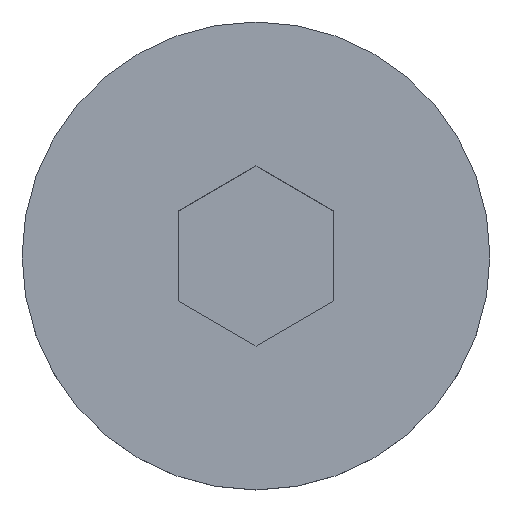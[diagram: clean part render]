
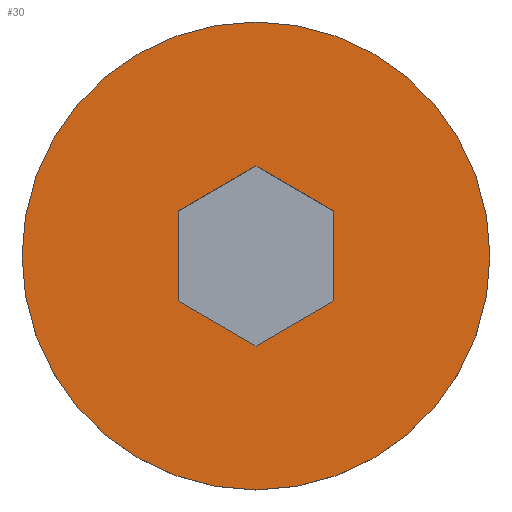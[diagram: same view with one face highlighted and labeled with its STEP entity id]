
A CAD part, top view. The second image highlights one B-rep face of the part: STEP entity #30.
In plain terms, the highlighted planar face has unit normal (0, 0, 1).
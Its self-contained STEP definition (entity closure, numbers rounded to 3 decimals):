
#3 = AXIS2_PLACEMENT_3D ( 'NONE', #218, #187, #151 ) ;
#13 = VERTEX_POINT ( 'NONE', #104 ) ;
#15 = LINE ( 'NONE', #349, #50 ) ;
#18 = LINE ( 'NONE', #375, #357 ) ;
#25 = ORIENTED_EDGE ( 'NONE', *, *, #190, .T. ) ;
#30 = ADVANCED_FACE ( 'NONE', ( #48, #76 ), #207, .T. ) ;
#34 = ORIENTED_EDGE ( 'NONE', *, *, #231, .T. ) ;
#36 = AXIS2_PLACEMENT_3D ( 'NONE', #307, #333, #409 ) ;
#41 = VERTEX_POINT ( 'NONE', #332 ) ;
#43 = CARTESIAN_POINT ( 'NONE',  ( -2.5, 1.443, 1.5 ) ) ;
#45 = DIRECTION ( 'NONE',  ( 0., -1., 0. ) ) ;
#48 = FACE_BOUND ( 'NONE', #216, .T. ) ;
#50 = VECTOR ( 'NONE', #319, 1000. ) ;
#54 = VERTEX_POINT ( 'NONE', #79 ) ;
#56 = CARTESIAN_POINT ( 'NONE',  ( 0., 2.887, 1.5 ) ) ;
#68 = EDGE_CURVE ( 'NONE', #70, #13, #286, .T. ) ;
#69 = ORIENTED_EDGE ( 'NONE', *, *, #68, .F. ) ;
#70 = VERTEX_POINT ( 'NONE', #43 ) ;
#76 = FACE_OUTER_BOUND ( 'NONE', #350, .T. ) ;
#79 = CARTESIAN_POINT ( 'NONE',  ( 7.5, 0., 1.5 ) ) ;
#81 = DIRECTION ( 'NONE',  ( 0.866, -0.5, 0. ) ) ;
#87 = ORIENTED_EDGE ( 'NONE', *, *, #303, .F. ) ;
#101 = AXIS2_PLACEMENT_3D ( 'NONE', #184, #310, #118 ) ;
#102 = VECTOR ( 'NONE', #129, 1000. ) ;
#104 = CARTESIAN_POINT ( 'NONE',  ( -2.5, -1.443, 1.5 ) ) ;
#105 = VECTOR ( 'NONE', #305, 1000. ) ;
#106 = ORIENTED_EDGE ( 'NONE', *, *, #115, .F. ) ;
#112 = CARTESIAN_POINT ( 'NONE',  ( -2.5, 1.443, 1.5 ) ) ;
#115 = EDGE_CURVE ( 'NONE', #13, #267, #18, .T. ) ;
#118 = DIRECTION ( 'NONE',  ( 1., 0., 0. ) ) ;
#122 = ORIENTED_EDGE ( 'NONE', *, *, #296, .F. ) ;
#124 = EDGE_CURVE ( 'NONE', #133, #381, #342, .T. ) ;
#125 = CARTESIAN_POINT ( 'NONE',  ( 0., 2.887, 1.5 ) ) ;
#129 = DIRECTION ( 'NONE',  ( -0.866, -0.5, 0. ) ) ;
#133 = VERTEX_POINT ( 'NONE', #407 ) ;
#145 = VECTOR ( 'NONE', #257, 1000. ) ;
#151 = DIRECTION ( 'NONE',  ( 1., 0., 0. ) ) ;
#161 = ORIENTED_EDGE ( 'NONE', *, *, #124, .F. ) ;
#184 = CARTESIAN_POINT ( 'NONE',  ( 0., 0., 1.5 ) ) ;
#187 = DIRECTION ( 'NONE',  ( 0., 0., 1. ) ) ;
#190 = EDGE_CURVE ( 'NONE', #54, #41, #264, .T. ) ;
#193 = ORIENTED_EDGE ( 'NONE', *, *, #345, .F. ) ;
#200 = VECTOR ( 'NONE', #45, 1000. ) ;
#207 = PLANE ( 'NONE',  #36 ) ;
#216 = EDGE_LOOP ( 'NONE', ( #122, #161, #193, #106, #69, #87 ) ) ;
#218 = CARTESIAN_POINT ( 'NONE',  ( 0., 0., 1.5 ) ) ;
#231 = EDGE_CURVE ( 'NONE', #41, #54, #394, .T. ) ;
#257 = DIRECTION ( 'NONE',  ( 0.866, 0.5, 0. ) ) ;
#264 = CIRCLE ( 'NONE', #101, 7.5 ) ;
#267 = VERTEX_POINT ( 'NONE', #415 ) ;
#269 = LINE ( 'NONE', #388, #145 ) ;
#286 = LINE ( 'NONE', #112, #200 ) ;
#289 = CARTESIAN_POINT ( 'NONE',  ( 2.5, 1.443, 1.5 ) ) ;
#296 = EDGE_CURVE ( 'NONE', #381, #401, #15, .T. ) ;
#303 = EDGE_CURVE ( 'NONE', #401, #70, #386, .T. ) ;
#305 = DIRECTION ( 'NONE',  ( 0., 1., 0. ) ) ;
#307 = CARTESIAN_POINT ( 'NONE',  ( 0., 0., 1.5 ) ) ;
#310 = DIRECTION ( 'NONE',  ( 0., 0., 1. ) ) ;
#319 = DIRECTION ( 'NONE',  ( -0.866, 0.5, 0. ) ) ;
#332 = CARTESIAN_POINT ( 'NONE',  ( -7.5, 0., 1.5 ) ) ;
#333 = DIRECTION ( 'NONE',  ( 0., 0., 1. ) ) ;
#342 = LINE ( 'NONE', #371, #105 ) ;
#345 = EDGE_CURVE ( 'NONE', #267, #133, #269, .T. ) ;
#349 = CARTESIAN_POINT ( 'NONE',  ( 2.5, 1.443, 1.5 ) ) ;
#350 = EDGE_LOOP ( 'NONE', ( #34, #25 ) ) ;
#357 = VECTOR ( 'NONE', #81, 1000. ) ;
#371 = CARTESIAN_POINT ( 'NONE',  ( 2.5, -1.443, 1.5 ) ) ;
#375 = CARTESIAN_POINT ( 'NONE',  ( -2.5, -1.443, 1.5 ) ) ;
#381 = VERTEX_POINT ( 'NONE', #289 ) ;
#386 = LINE ( 'NONE', #125, #102 ) ;
#388 = CARTESIAN_POINT ( 'NONE',  ( 0., -2.887, 1.5 ) ) ;
#394 = CIRCLE ( 'NONE', #3, 7.5 ) ;
#401 = VERTEX_POINT ( 'NONE', #56 ) ;
#407 = CARTESIAN_POINT ( 'NONE',  ( 2.5, -1.443, 1.5 ) ) ;
#409 = DIRECTION ( 'NONE',  ( 1., 0., 0. ) ) ;
#415 = CARTESIAN_POINT ( 'NONE',  ( 0., -2.887, 1.5 ) ) ;
